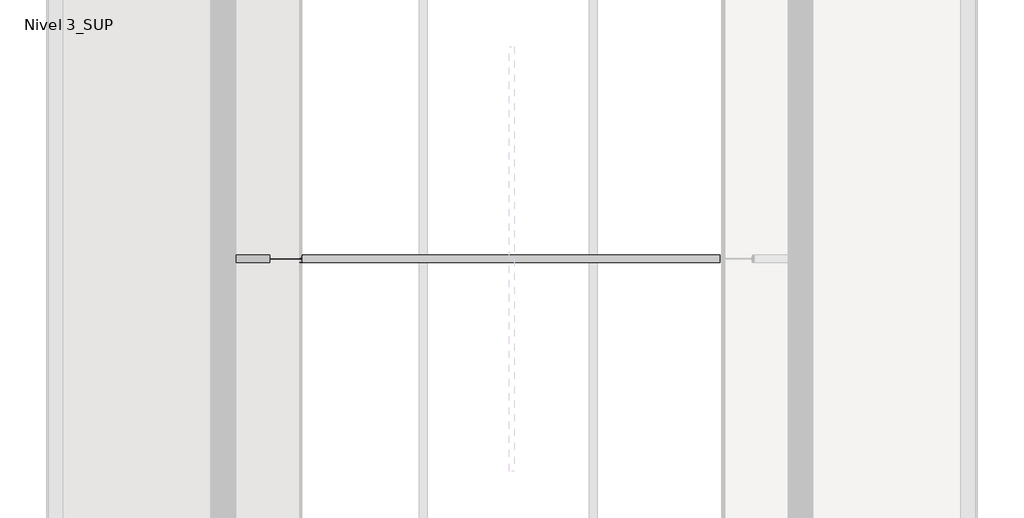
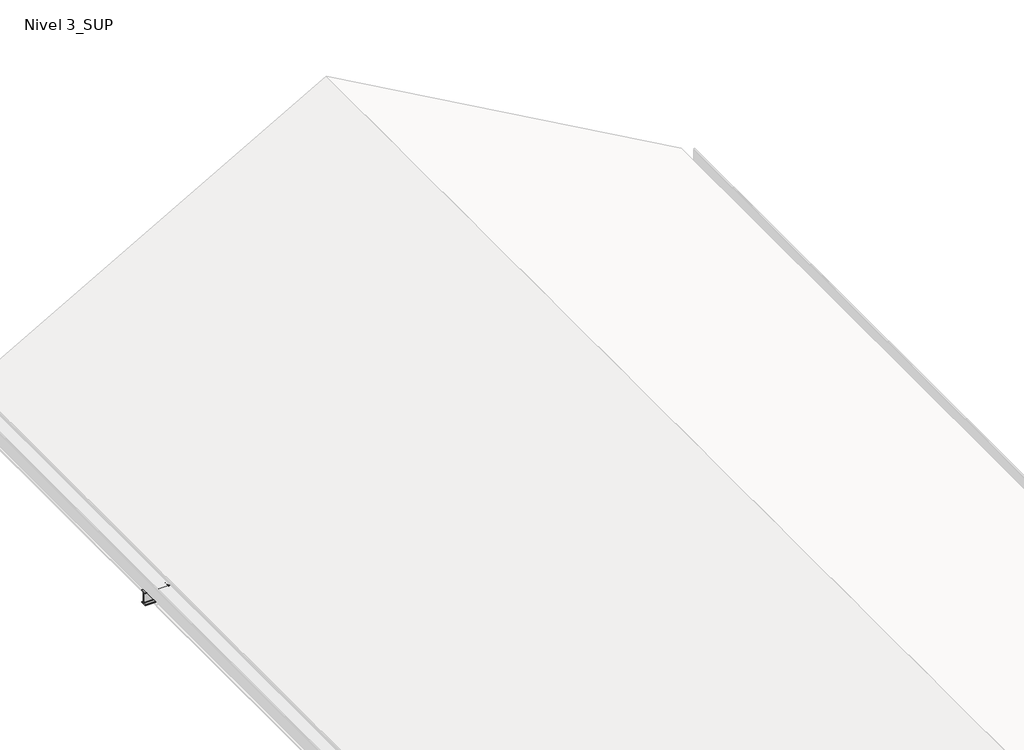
# One storey, part 8 of 10: 2 beams.
"""IFC4 building model written with IfcOpenShell, lengths in millimetres."""

from ifc_helpers import new_model, si_unit, point, frame, frame_2d, origin, place, context, project, spatial, polyline, circle_curve, ellipse_curve, trimmed, segment, composite_curve, outline, extrude, element, save
from ifc_brep_helpers import plane_surface, cylinder_surface, revolved_surface, advanced_brep

model = new_model("IFC4")

# Units and contexts
model_context = context("Model", 3, world=origin())
ifc_project = project(units=[si_unit("LENGTHUNIT", "METRE", prefix="MILLI")], contexts=[model_context])

# Site, building, storey
site = spatial("IfcSite", under=ifc_project)
building = spatial("IfcBuilding", under=site)
storey = spatial("IfcBuildingStorey", under=building, Name="Nivel 3_SUP", Elevation=13230.0)

# Beams
placement = place(None, origin())
element("IfcBeam", 1, ObjectType="IPN - Secciones en I con alas cónicas : IPN 160", at=placement, inside=storey, context=model_context, shape_type="SweptSolid", body=[
    extrude(outline(composite_curve([segment(polyline([(9888.6072273, 13390.0), (9888.6072273, 13386.3950593)]), True, "CONTINUOUS"), segment(trimmed(circle_curve(frame_2d((9884.8072273, 13386.3950593)), 3.8), [point((9888.6072273, 13386.3950593))], [point((9885.3340891, 13382.6317607))], False, "CARTESIAN"), True, "CONTINUOUS"), segment(polyline([(9885.3340891, 13382.6317607), (9860.1837459, 13379.1107126)]), True, "CONTINUOUS"), segment(trimmed(circle_curve(frame_2d((9861.0572273, 13372.8715596)), 6.3), [point((9860.1837459, 13379.1107126))], [point((9854.7572273, 13372.8715596))], True, "CARTESIAN"), True, "CONTINUOUS"), segment(polyline([(9854.7572273, 13372.8715596), (9854.7572273, 13247.1284404)]), True, "CONTINUOUS"), segment(trimmed(circle_curve(frame_2d((9861.0572273, 13247.1284404)), 6.3), [point((9854.7572273, 13247.1284404))], [point((9860.1837459, 13240.8892874))], True, "CARTESIAN"), True, "CONTINUOUS"), segment(polyline([(9860.1837459, 13240.8892874), (9885.3340891, 13237.3682393)]), True, "CONTINUOUS"), segment(trimmed(circle_curve(frame_2d((9884.8072273, 13233.6049407)), 3.8), [point((9885.3340891, 13237.3682393))], [point((9888.6072273, 13233.6049407))], False, "CARTESIAN"), True, "CONTINUOUS"), segment(polyline([(9888.6072273, 13233.6049407), (9888.6072273, 13230.0), (9814.6072273, 13230.0), (9814.6072273, 13233.6049407)]), True, "CONTINUOUS"), segment(trimmed(circle_curve(frame_2d((9818.4072273, 13233.6049407)), 3.8), [point((9814.6072273, 13233.6049407))], [point((9817.8803655, 13237.3682393))], False, "CARTESIAN"), True, "CONTINUOUS"), segment(polyline([(9817.8803655, 13237.3682393), (9843.0307088, 13240.8892874)]), True, "CONTINUOUS"), segment(trimmed(circle_curve(frame_2d((9842.1572273, 13247.1284404)), 6.3), [point((9843.0307088, 13240.8892874))], [point((9848.4572273, 13247.1284404))], True, "CARTESIAN"), True, "CONTINUOUS"), segment(polyline([(9848.4572273, 13247.1284404), (9848.4572273, 13372.8715596)]), True, "CONTINUOUS"), segment(trimmed(circle_curve(frame_2d((9842.1572273, 13372.8715596)), 6.3), [point((9848.4572273, 13372.8715596))], [point((9843.0307088, 13379.1107126))], True, "CARTESIAN"), True, "CONTINUOUS"), segment(polyline([(9843.0307088, 13379.1107126), (9817.8803655, 13382.6317607)]), True, "CONTINUOUS"), segment(trimmed(circle_curve(frame_2d((9818.4072273, 13386.3950593)), 3.8), [point((9817.8803655, 13382.6317607))], [point((9814.6072273, 13386.3950593))], False, "CARTESIAN"), True, "CONTINUOUS"), segment(polyline([(9814.6072273, 13386.3950593), (9814.6072273, 13390.0), (9888.6072273, 13390.0)]), True, "CONTINUOUS")], self_intersect=False)), frame((6033.4837907, 0.0, 0.0), z_axis=(1.0, 0.0, 0.0), x_axis=(0.0, 1.0, 0.0)), (0.0, 0.0, 1.0), 8899.073732),
])
element("IfcBeam", 2, ObjectType="IPN - Secciones en I con alas cónicas : IPN 160", at=placement, inside=storey, context=model_context, shape_type="AdvancedBrep", body=[
    advanced_brep(
    [(6390.9153459, 9814.6072273, 13240.5610738), (6389.1422546, 9814.6072273, 13243.6998227), (6387.2912749, 9817.8803655, 13246.9764506), (6385.5594462, 9843.0307088, 13250.0421559), (6382.4907166, 9848.4572273, 13255.4744601), (6387.2054153, 9848.4572273, 13247.1284404), (6390.7299368, 9843.0307088, 13240.8892874), (6390.9153459, 9840.6863257, 13240.5610738), (6649.0725288, 9814.6072273, 13386.3950593), (6641.7431841, 9814.6072273, 13386.3950593), (6627.4300365, 9817.8803655, 13382.6317607), (6614.038253, 9843.0307088, 13379.1107126), (6590.3085608, 9848.4572273, 13372.8715596), (6391.4963539, 9843.0307088, 13240.8892874), (6402.5409822, 9848.4572273, 13247.1284404), (6625.133057, 9848.4572273, 13372.8715596), (6636.1776853, 9843.0307088, 13379.1107126), (6642.4106895, 9817.8803655, 13382.6317607)],
    [
        (0, 1),
        (1, 2, circle_curve(frame((6389.1422546, 9818.4072273, 13243.6998227), z_axis=(-0.8706797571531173, 0.0, -0.4918503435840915), x_axis=(0.0, 1.0, 0.0)), 3.8)),
        (2, 3),
        (3, 4, circle_curve(frame((6382.4907166, 9842.1572273, 13255.4744601), z_axis=(0.8706797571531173, 0.0, 0.4918503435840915), x_axis=(0.0, 1.0, 0.0)), 6.3)),
        (4, 5),
        (5, 6, ellipse_curve(frame((6387.2054153, 9842.1572273, 13247.1284404), z_axis=(-0.8706797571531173, 0.0, -0.49185034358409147), x_axis=(0.49185034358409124, 0.0, -0.8706797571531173)), 7.2357258, 6.3)),
        (6, 7),
        (7, 0),
        (0, 8),
        (8, 9),
        (9, 1),
        (2, 10),
        (10, 11),
        (11, 3),
        (11, 12, ellipse_curve(frame((6590.3085608, 9842.1572273, 13372.8715596), z_axis=(-0.2542835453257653, 0.0, 0.9671297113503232), x_axis=(0.9671297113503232, 0.0, 0.2542835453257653)), 24.7754922, 6.3)),
        (12, 4),
        (7, 13),
        (13, 14, ellipse_curve(frame((6402.5409822, 9842.1572273, 13247.1284404), z_axis=(0.4918503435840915, 0.0, -0.8706797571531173), x_axis=(0.8706797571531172, 0.0, 0.49185034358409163)), 12.8087742, 6.3)),
        (14, 15),
        (15, 16, ellipse_curve(frame((6625.133057, 9842.1572273, 13372.8715596), z_axis=(0.4918503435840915, 0.0, -0.8706797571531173), x_axis=(0.8706797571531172, 0.0, 0.49185034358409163)), 12.8087742, 6.3)),
        (16, 17),
        (17, 8, ellipse_curve(frame((6649.0725288, 9818.4072273, 13386.3950593), z_axis=(-0.4918503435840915, 0.0, 0.8706797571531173), x_axis=(-0.8706797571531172, 0.0, -0.49185034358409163)), 7.7259273, 3.8)),
        (9, 10, ellipse_curve(frame((6641.7431841, 9818.4072273, 13386.3950593), z_axis=(0.2542835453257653, 0.0, -0.9671297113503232), x_axis=(-0.9671297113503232, 0.0, -0.2542835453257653)), 14.9439477, 3.8)),
        (6, 13),
        (5, 14),
        (17, 10),
        (12, 15),
        (11, 16),
    ],
    [
        plane_surface(frame((6351.5673184, 9851.6072273, 13310.2154543), z_axis=(-0.8706797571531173, 0.0, -0.49185034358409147), x_axis=(-0.49185034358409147, 0.0, 0.8706797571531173))),
        plane_surface(frame((6390.9153459, 9814.6072273, 13240.5610738), z_axis=(0.0, -1.0, 0.0), x_axis=(0.8706797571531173, 0.0, 0.4918503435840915))),
        plane_surface(frame((6386.2427677, 9833.1072273, 13248.8325315), z_axis=(-0.4870999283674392, -0.13864784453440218, 0.862270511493), x_axis=(0.8706797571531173, 0.0, 0.4918503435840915))),
        revolved_surface(polyline([(6611.171018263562, 9848.4572273, 13384.656842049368), (6382.4907166, 9848.4572273, 13255.4744601)]), (6382.4907166, 9842.1572273, 13255.4744601), (0.8706797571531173, 0.0, 0.4918503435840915)),
        plane_surface(frame((6390.9153459, 9888.6072273, 13240.5610738), z_axis=(0.4918503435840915, 0.0, -0.8706797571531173), x_axis=(0.8706797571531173, 0.0, 0.4918503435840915))),
        cylinder_surface(frame((6389.1422546, 9818.4072273, 13243.6998227), z_axis=(-0.8706797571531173, 0.0, -0.4918503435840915), x_axis=(0.0, 1.0, 0.0)), 3.8),
        plane_surface(frame((6033.4837907, 9817.8803655, 13237.3682393), z_axis=(0.0, 0.13864784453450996, -0.9903417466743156), x_axis=(1.0, 0.0, 0.0))),
        cylinder_surface(frame((10483.0206567, 9842.1572273, 13247.1284404), z_axis=(1.0, 0.0, 0.0), x_axis=(0.0, 1.0, 0.0)), 6.3),
        revolved_surface(polyline([(6627.290448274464, 9822.2072273, 13386.3950593), (6656.195919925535, 9822.2072273, 13386.3950593)]), (10483.0206567, 9818.4072273, 13386.3950593), (-1.0, 0.0, 0.0)),
        plane_surface(frame((6033.4837907, 9848.4572273, 13247.1284404), z_axis=(0.0, 1.0, 0.0), x_axis=(1.0, 0.0, 0.0))),
        cylinder_surface(frame((10483.0206567, 9842.1572273, 13372.8715596), z_axis=(1.0, 0.0, 0.0), x_axis=(0.0, 1.0, 0.0)), 6.3),
        plane_surface(frame((6033.4837907, 9843.0307088, 13379.1107126), z_axis=(0.0, 0.1386478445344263, 0.9903417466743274), x_axis=(1.0, 0.0, 0.0))),
    ],
    [
        (0, [[1, 2, 3, 4, 5, 6, 7, 8]]),
        (1, [[-1, 9, 10, 11]]),
        (2, [[-3, 12, 13, 14]]),
        (3, [[-4, -14, 15, 16]]),
        (4, [[-8, 17, 18, 19, 20, 21, 22, -9]]),
        (5, [[-2, -11, 23, -12]]),
        (6, [[24, -17, -7]]),
        (7, [[-24, -6, 25, -18]]),
        (8, [[26, -23, -10, -22]]),
        (9, [[-25, -5, -16, 27, -19]]),
        (10, [[-27, -15, 28, -20]]),
        (11, [[-28, -13, -26, -21]]),
    ],
),
    advanced_brep(
    [(10513.2954635, 9888.6072273, 15569.3094575), (10511.5223722, 9888.6072273, 15572.4482064), (10509.6713925, 9885.3340891, 15575.7248344), (10507.9395638, 9860.1837459, 15578.7905396), (10504.8708342, 9854.7572273, 15584.2228438), (10513.2954635, 9854.7572273, 15569.3094575), (10420.8520301, 9885.3340891, 15525.5504349), (10424.3730781, 9860.1837459, 15531.5835105), (10417.0887314, 9888.6072273, 15519.1022796), (10417.0887314, 9888.6072273, 15514.9619045), (10430.6122311, 9854.7572273, 15522.6013815), (10424.3730781, 9860.1837459, 15519.07686), (10420.8520301, 9885.3340891, 15517.0878064), (10430.6122311, 9854.7572273, 15542.2738734)],
    [
        (0, 1),
        (1, 2, circle_curve(frame((10511.5223722, 9884.8072273, 15572.4482064), z_axis=(0.8706797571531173, 0.0, 0.4918503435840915), x_axis=(0.0, 1.0, 0.0)), 3.8)),
        (2, 3),
        (3, 4, circle_curve(frame((10504.8708342, 9861.0572273, 15584.2228438), z_axis=(-0.8706797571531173, 0.0, -0.4918503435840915), x_axis=(0.0, 1.0, 0.0)), 6.3)),
        (4, 5),
        (5, 0),
        (2, 6),
        (6, 7),
        (7, 3),
        (1, 8),
        (8, 6, ellipse_curve(frame((10417.0887314, 9884.8072273, 15519.1022796), z_axis=(0.8636695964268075, 0.0, -0.5040583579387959), x_axis=(-0.5040583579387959, 0.0, -0.8636695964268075)), 7.5388096, 3.8)),
        (0, 9),
        (9, 8),
        (5, 10),
        (10, 11, ellipse_curve(frame((10430.6122311, 9861.0572273, 15522.6013815), z_axis=(0.4918503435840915, 0.0, -0.8706797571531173), x_axis=(0.8706797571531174, 0.0, 0.49185034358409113)), 7.2357258, 6.3)),
        (11, 12),
        (12, 9, ellipse_curve(frame((10417.0887314, 9884.8072273, 15514.9619045), z_axis=(-0.4918503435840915, 0.0, 0.8706797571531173), x_axis=(-0.8706797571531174, 0.0, -0.49185034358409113)), 4.3644061, 3.8)),
        (7, 13, ellipse_curve(frame((10430.6122311, 9861.0572273, 15542.2738734), z_axis=(-0.8636695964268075, 0.0, 0.5040583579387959), x_axis=(0.5040583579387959, 0.0, 0.8636695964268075)), 12.4985528, 6.3)),
        (13, 4),
        (6, 12),
        (11, 7),
        (10, 13),
    ],
    [
        plane_surface(frame((10473.947436, 9851.6072273, 15638.9638381), z_axis=(0.8706797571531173, 0.0, 0.49185034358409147), x_axis=(-0.49185034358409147, 0.0, 0.8706797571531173))),
        plane_surface(frame((6386.2427677, 9870.1072273, 13248.8325315), z_axis=(-0.487099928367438, 0.13864784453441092, 0.8622705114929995), x_axis=(0.8706797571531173, 0.0, 0.4918503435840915))),
        cylinder_surface(frame((6389.1422546, 9884.8072273, 13243.6998227), z_axis=(-0.8706797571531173, 0.0, -0.4918503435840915), x_axis=(0.0, 1.0, 0.0)), 3.8),
        plane_surface(frame((6389.1422546, 9888.6072273, 13243.6998227), z_axis=(0.0, 1.0, 0.0), x_axis=(0.8706797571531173, 0.0, 0.4918503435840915))),
        plane_surface(frame((6390.9153459, 9888.6072273, 13240.5610738), z_axis=(0.4918503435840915, 0.0, -0.8706797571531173), x_axis=(0.8706797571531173, 0.0, 0.4918503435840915))),
        revolved_surface(polyline([(10504.870834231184, 9867.357227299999, 15584.222843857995), (10421.213573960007, 9867.357227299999, 15536.964535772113)]), (6382.4907166, 9861.0572273, 13255.4744601), (0.8706797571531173, 0.0, 0.4918503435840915)),
        plane_surface(frame((10420.8520301, 9885.3340891, 13390.0), z_axis=(-0.9903417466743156, -0.13864784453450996, 0.0), x_axis=(0.0, 0.0, 1.0))),
        cylinder_surface(frame((10430.6122311, 9861.0572273, 14544.0), z_axis=(0.0, 0.0, 1.0), x_axis=(0.0, -1.0, 0.0)), 6.3),
        plane_surface(frame((10430.6122311, 9854.7572273, 13390.0), z_axis=(0.0, -1.0, 0.0), x_axis=(0.0, 0.0, 1.0))),
        revolved_surface(polyline([(10417.0887314, 9881.0072273, 15512.591238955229), (10417.0887314, 9881.0072273, 15525.61332024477)]), (10417.0887314, 9884.8072273, 14544.0), (0.0, 0.0, -1.0)),
    ],
    [
        (0, [[1, 2, 3, 4, 5, 6]]),
        (1, [[-3, 7, 8, 9]]),
        (2, [[-2, 10, 11, -7]]),
        (3, [[-1, 12, 13, -10]]),
        (4, [[-6, 14, 15, 16, 17, -12]]),
        (5, [[-4, -9, 18, 19]]),
        (6, [[20, -16, 21, -8]]),
        (7, [[-21, -15, 22, -18]]),
        (8, [[-22, -14, -5, -19]]),
        (9, [[-20, -11, -13, -17]]),
    ],
),
    advanced_brep(
    [(6313.9923823, 9888.6072273, 13376.731086), (6312.2192909, 9888.6072273, 13379.8698349), (6323.7703264, 9888.6072273, 13386.3950593), (6331.0996711, 9888.6072273, 13386.3950593), (6317.5751907, 9860.1837459, 13370.3887528), (6315.843362, 9885.3340891, 13373.4544581), (6332.0891402, 9885.3340891, 13382.6317607), (6333.0149153, 9860.1837459, 13379.1107126), (6320.6439202, 9854.7572273, 13364.9564486), (6334.6553508, 9854.7572273, 13372.8715596), (6316.1726436, 9854.7572273, 13372.8715596), (6312.6481221, 9860.1837459, 13379.1107126), (6312.2192909, 9865.6060482, 13379.8698349), (6317.1084871, 9885.3340891, 13382.6317607)],
    [
        (0, 1),
        (1, 2),
        (2, 3),
        (3, 0),
        (4, 5),
        (5, 6),
        (6, 7),
        (7, 4),
        (8, 4, circle_curve(frame((6320.6439202, 9861.0572273, 13364.9564486), z_axis=(-0.8706797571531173, 0.0, -0.4918503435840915), x_axis=(0.0, 1.0, 0.0)), 6.3)),
        (7, 9, ellipse_curve(frame((6334.6553508, 9861.0572273, 13372.8715596), z_axis=(0.967129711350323, 0.0, 0.2542835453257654), x_axis=(-0.25428354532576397, 0.0, 0.9671297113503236)), 6.514121, 6.3)),
        (9, 8),
        (0, 5, circle_curve(frame((6313.9923823, 9884.8072273, 13376.731086), z_axis=(-0.8706797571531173, 0.0, -0.4918503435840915), x_axis=(0.0, 1.0, 0.0)), 3.8)),
        (8, 10),
        (10, 11, ellipse_curve(frame((6316.1726436, 9861.0572273, 13372.8715596), z_axis=(-0.8706797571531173, 0.0, -0.49185034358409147), x_axis=(0.49185034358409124, 0.0, -0.8706797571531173)), 7.2357258, 6.3)),
        (11, 12),
        (12, 1),
        (12, 13),
        (13, 2, ellipse_curve(frame((6323.7703264, 9884.8072273, 13386.3950593), z_axis=(0.4918503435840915, 0.0, -0.8706797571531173), x_axis=(-0.8706797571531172, 0.0, -0.49185034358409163)), 7.7259273, 3.8)),
        (3, 6, ellipse_curve(frame((6331.0996711, 9884.8072273, 13386.3950593), z_axis=(-0.967129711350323, 0.0, -0.2542835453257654), x_axis=(0.25428354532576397, 0.0, -0.9671297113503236)), 3.9291524, 3.8)),
        (6, 13),
        (11, 7),
        (10, 9),
    ],
    [
        plane_surface(frame((6312.2192909, 9888.6072273, 13379.8698349), z_axis=(0.0, 1.0, 0.0), x_axis=(0.8706797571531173, 0.0, 0.4918503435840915))),
        plane_surface(frame((6316.8918692, 9870.1072273, 13371.5983772), z_axis=(0.48709992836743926, 0.13864784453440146, -0.8622705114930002), x_axis=(0.8706797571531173, 0.0, 0.4918503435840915))),
        revolved_surface(polyline([(6336.097574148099, 9867.357227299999, 13373.686277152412), (6320.6439202, 9867.357227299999, 13364.9564486)]), (6320.6439202, 9861.0572273, 13364.9564486), (0.8706797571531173, 0.0, 0.4918503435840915)),
        plane_surface(frame((6351.5673184, 9851.6072273, 13310.2154543), z_axis=(-0.8706797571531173, 0.0, -0.49185034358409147), x_axis=(-0.49185034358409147, 0.0, 0.8706797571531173))),
        plane_surface(frame((6312.2192909, 9814.6072273, 13379.8698349), z_axis=(-0.4918503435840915, 0.0, 0.8706797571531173), x_axis=(0.8706797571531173, 0.0, 0.4918503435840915))),
        cylinder_surface(frame((6313.9923823, 9884.8072273, 13376.731086), z_axis=(-0.8706797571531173, 0.0, -0.4918503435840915), x_axis=(0.0, 1.0, 0.0)), 3.8),
        plane_surface(frame((6033.4837907, 9885.3340891, 13382.6317607), z_axis=(0.0, -0.13864784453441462, 0.9903417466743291), x_axis=(1.0, 0.0, 0.0))),
        cylinder_surface(frame((10483.0206567, 9861.0572273, 13372.8715596), z_axis=(1.0, 0.0, 0.0), x_axis=(0.0, 1.0, 0.0)), 6.3),
        plane_surface(frame((6033.4837907, 9854.7572273, 13372.8715596), z_axis=(0.0, -1.0, 0.0), x_axis=(1.0, 0.0, 0.0))),
        revolved_surface(polyline([(6317.043517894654, 9888.607227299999, 13386.3950593), (6332.098789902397, 9888.607227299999, 13386.3950593)]), (10483.0206567, 9884.8072273, 13386.3950593), (-1.0, 0.0, 0.0)),
    ],
    [
        (0, [[1, 2, 3, 4]]),
        (1, [[5, 6, 7, 8]]),
        (2, [[9, -8, 10, 11]]),
        (3, [[-1, 12, -5, -9, 13, 14, 15, 16]]),
        (4, [[-16, 17, 18, -2]]),
        (5, [[-12, -4, 19, -6]]),
        (6, [[20, -17, -15, 21, -7]]),
        (7, [[-21, -14, 22, -10]]),
        (8, [[-22, -13, -11]]),
        (9, [[-20, -19, -3, -18]]),
    ],
),
    advanced_brep(
    [(10413.4837907, 9888.6072273, 15692.5495499), (10413.4837907, 9885.3340891, 15688.2272964), (6345.1324915, 9885.3340891, 13390.0), (6337.4811832, 9888.6072273, 13390.0), (10413.4837907, 9854.7572273, 15677.0174331), (10413.4837907, 9854.7572273, 15532.5979515), (6620.6295447, 9854.7572273, 13390.0), (6364.9763347, 9854.7572273, 13390.0), (10413.4837907, 9885.3340891, 15521.3880882), (10413.4837907, 9888.6072273, 15517.0658347), (6648.1246962, 9888.6072273, 13390.0), (6640.4733878, 9885.3340891, 13390.0), (10413.4837907, 9814.6072273, 15517.0658347), (10413.4837907, 9817.8803655, 15521.3880882), (6640.4733878, 9817.8803655, 13390.0), (6648.1246962, 9814.6072273, 13390.0), (10413.4837907, 9848.4572273, 15532.5979515), (10413.4837907, 9848.4572273, 15677.0174331), (6364.9763347, 9848.4572273, 13390.0), (6620.6295447, 9848.4572273, 13390.0), (10413.4837907, 9817.8803655, 15688.2272964), (10413.4837907, 9814.6072273, 15692.5495499), (6337.4811832, 9814.6072273, 13390.0), (6345.1324915, 9817.8803655, 13390.0), (10413.4837907, 9888.6072273, 15696.6899249), (6330.1518385, 9888.6072273, 13390.0), (10413.4837907, 9860.1837459, 15684.1832745), (6352.2912708, 9860.1837459, 13390.0), (10413.4837907, 9860.1837459, 15525.4321101), (6633.3146085, 9860.1837459, 13390.0), (10413.4837907, 9888.6072273, 15512.9254597), (6655.4540409, 9888.6072273, 13390.0), (10413.4837907, 9814.6072273, 15512.9254597), (6655.4540409, 9814.6072273, 13390.0), (10413.4837907, 9843.0307088, 15525.4321101), (6633.3146085, 9843.0307088, 13390.0), (10413.4837907, 9843.0307088, 15684.1832745), (6352.2912708, 9843.0307088, 13390.0), (10413.4837907, 9814.6072273, 15696.6899249), (6330.1518385, 9814.6072273, 13390.0)],
    [
        (0, 1, ellipse_curve(frame((10413.4837907, 9884.8072273, 15692.5495499), z_axis=(-1.0, 0.0, 0.0), x_axis=(0.0, 0.0, -1.0)), 4.3644061, 3.8)),
        (1, 2),
        (2, 3, ellipse_curve(frame((6337.4811832, 9884.8072273, 13390.0), z_axis=(0.0, 0.0, 1.0), x_axis=(-1.0, 0.0, 0.0)), 7.7259273, 3.8)),
        (3, 0),
        (4, 5),
        (5, 6),
        (6, 7),
        (7, 4),
        (8, 9, ellipse_curve(frame((10413.4837907, 9884.8072273, 15517.0658347), z_axis=(-1.0, 0.0, 0.0), x_axis=(0.0, 0.0, -1.0)), 4.3644061, 3.8)),
        (9, 10),
        (10, 11, ellipse_curve(frame((6648.1246962, 9884.8072273, 13390.0), z_axis=(0.0, 0.0, 1.0), x_axis=(-1.0, 0.0, 0.0)), 7.7259273, 3.8)),
        (11, 8),
        (12, 13, ellipse_curve(frame((10413.4837907, 9818.4072273, 15517.0658347), z_axis=(-1.0, 0.0, 0.0), x_axis=(0.0, 0.0, -1.0)), 4.3644061, 3.8)),
        (13, 14),
        (14, 15, ellipse_curve(frame((6648.1246962, 9818.4072273, 13390.0), z_axis=(0.0, 0.0, 1.0), x_axis=(-1.0, 0.0, 0.0)), 7.7259273, 3.8)),
        (15, 12),
        (16, 17),
        (17, 18),
        (18, 19),
        (19, 16),
        (20, 21, ellipse_curve(frame((10413.4837907, 9818.4072273, 15692.5495499), z_axis=(-1.0, 0.0, 0.0), x_axis=(0.0, 0.0, -1.0)), 4.3644061, 3.8)),
        (21, 22),
        (22, 23, ellipse_curve(frame((6337.4811832, 9818.4072273, 13390.0), z_axis=(0.0, 0.0, 1.0), x_axis=(-1.0, 0.0, 0.0)), 7.7259273, 3.8)),
        (23, 20),
        (24, 0),
        (3, 25),
        (25, 24),
        (1, 26),
        (26, 27),
        (27, 2),
        (26, 4, ellipse_curve(frame((10413.4837907, 9861.0572273, 15677.0174331), z_axis=(1.0, 0.0, 0.0), x_axis=(0.0, 0.0, 1.0)), 7.2357258, 6.3)),
        (7, 27, ellipse_curve(frame((6364.9763347, 9861.0572273, 13390.0), z_axis=(0.0, 0.0, -1.0), x_axis=(1.0, 0.0, 0.0)), 12.8087742, 6.3)),
        (5, 28, ellipse_curve(frame((10413.4837907, 9861.0572273, 15532.5979515), z_axis=(1.0, 0.0, 0.0), x_axis=(0.0, 0.0, 1.0)), 7.2357258, 6.3)),
        (28, 29),
        (29, 6, ellipse_curve(frame((6620.6295447, 9861.0572273, 13390.0), z_axis=(0.0, 0.0, -1.0), x_axis=(1.0, 0.0, 0.0)), 12.8087742, 6.3)),
        (28, 8),
        (11, 29),
        (9, 30),
        (30, 31),
        (31, 10),
        (30, 32),
        (32, 33),
        (33, 31),
        (32, 12),
        (15, 33),
        (13, 34),
        (34, 35),
        (35, 14),
        (34, 16, ellipse_curve(frame((10413.4837907, 9842.1572273, 15532.5979515), z_axis=(1.0, 0.0, 0.0), x_axis=(0.0, 0.0, 1.0)), 7.2357258, 6.3)),
        (19, 35, ellipse_curve(frame((6620.6295447, 9842.1572273, 13390.0), z_axis=(0.0, 0.0, -1.0), x_axis=(1.0, 0.0, 0.0)), 12.8087742, 6.3)),
        (17, 36, ellipse_curve(frame((10413.4837907, 9842.1572273, 15677.0174331), z_axis=(1.0, 0.0, 0.0), x_axis=(0.0, 0.0, 1.0)), 7.2357258, 6.3)),
        (36, 37),
        (37, 18, ellipse_curve(frame((6364.9763347, 9842.1572273, 13390.0), z_axis=(0.0, 0.0, -1.0), x_axis=(1.0, 0.0, 0.0)), 12.8087742, 6.3)),
        (36, 20),
        (23, 37),
        (21, 38),
        (38, 39),
        (39, 22),
        (38, 24),
        (25, 39),
    ],
    [
        cylinder_surface(frame((6313.9923823, 9884.8072273, 13376.731086), z_axis=(-0.8706797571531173, 0.0, -0.4918503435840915), x_axis=(0.0, 1.0, 0.0)), 3.8),
        plane_surface(frame((6320.6439202, 9854.7572273, 13364.9564486), z_axis=(0.0, 1.0, 0.0), x_axis=(0.8706797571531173, 0.0, 0.4918503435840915))),
        cylinder_surface(frame((6389.1422546, 9884.8072273, 13243.6998227), z_axis=(-0.8706797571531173, 0.0, -0.4918503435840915), x_axis=(0.0, 1.0, 0.0)), 3.8),
        cylinder_surface(frame((6389.1422546, 9818.4072273, 13243.6998227), z_axis=(-0.8706797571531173, 0.0, -0.4918503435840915), x_axis=(0.0, 1.0, 0.0)), 3.8),
        plane_surface(frame((6382.4907166, 9848.4572273, 13255.4744601), z_axis=(0.0, -1.0, 0.0), x_axis=(0.8706797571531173, 0.0, 0.4918503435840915))),
        cylinder_surface(frame((6313.9923823, 9818.4072273, 13376.731086), z_axis=(-0.8706797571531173, 0.0, -0.4918503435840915), x_axis=(0.0, 1.0, 0.0)), 3.8),
        plane_surface(frame((6312.2192909, 9888.6072273, 13379.8698349), z_axis=(0.0, 1.0, 0.0), x_axis=(0.8706797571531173, 0.0, 0.4918503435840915))),
        plane_surface(frame((6316.8918692, 9870.1072273, 13371.5983772), z_axis=(0.48709992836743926, 0.13864784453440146, -0.8622705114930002), x_axis=(0.8706797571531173, 0.0, 0.4918503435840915))),
        revolved_surface(polyline([(10416.582447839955, 9867.357227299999, 15678.767876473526), (6355.266217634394, 9867.357227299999, 13384.514717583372)]), (6320.6439202, 9861.0572273, 13364.9564486), (0.8706797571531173, 0.0, 0.4918503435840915)),
        revolved_surface(polyline([(10416.582447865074, 9867.357227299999, 15534.348394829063), (6610.919427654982, 9867.357227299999, 13384.514717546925)]), (6382.4907166, 9861.0572273, 13255.4744601), (0.8706797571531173, 0.0, 0.4918503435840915)),
        plane_surface(frame((6386.2427677, 9870.1072273, 13248.8325315), z_axis=(-0.487099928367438, 0.13864784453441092, 0.8622705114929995), x_axis=(0.8706797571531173, 0.0, 0.4918503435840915))),
        plane_surface(frame((6389.1422546, 9888.6072273, 13243.6998227), z_axis=(0.0, 1.0, 0.0), x_axis=(0.8706797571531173, 0.0, 0.4918503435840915))),
        plane_surface(frame((6390.9153459, 9888.6072273, 13240.5610738), z_axis=(0.4918503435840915, 0.0, -0.8706797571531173), x_axis=(0.8706797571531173, 0.0, 0.4918503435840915))),
        plane_surface(frame((6390.9153459, 9814.6072273, 13240.5610738), z_axis=(0.0, -1.0, 0.0), x_axis=(0.8706797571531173, 0.0, 0.4918503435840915))),
        plane_surface(frame((6386.2427677, 9833.1072273, 13248.8325315), z_axis=(-0.4870999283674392, -0.13864784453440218, 0.862270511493), x_axis=(0.8706797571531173, 0.0, 0.4918503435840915))),
        revolved_surface(polyline([(10416.582447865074, 9848.4572273, 15534.348394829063), (6610.919427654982, 9848.4572273, 13384.514717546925)]), (6382.4907166, 9842.1572273, 13255.4744601), (0.8706797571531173, 0.0, 0.4918503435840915)),
        revolved_surface(polyline([(10416.582447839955, 9848.4572273, 15678.767876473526), (6355.266217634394, 9848.4572273, 13384.514717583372)]), (6320.6439202, 9842.1572273, 13364.9564486), (0.8706797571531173, 0.0, 0.4918503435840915)),
        plane_surface(frame((6316.8918692, 9833.1072273, 13371.5983772), z_axis=(0.487099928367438, -0.13864784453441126, -0.8622705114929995), x_axis=(0.8706797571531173, 0.0, 0.4918503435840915))),
        plane_surface(frame((6313.9923823, 9814.6072273, 13376.731086), z_axis=(0.0, -1.0, 0.0), x_axis=(0.8706797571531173, 0.0, 0.4918503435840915))),
        plane_surface(frame((6312.2192909, 9814.6072273, 13379.8698349), z_axis=(-0.4918503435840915, 0.0, 0.8706797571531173), x_axis=(0.8706797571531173, 0.0, 0.4918503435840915))),
        plane_surface(frame((10413.4837907, 9814.6072273, 13390.0), z_axis=(1.0, 0.0, 0.0), x_axis=(0.0, 0.0, 1.0))),
        plane_surface(frame((6033.4837907, 9814.6072273, 13390.0), z_axis=(0.0, 0.0, -1.0), x_axis=(1.0, 0.0, 0.0))),
    ],
    [
        (0, [[1, 2, 3, 4]]),
        (1, [[5, 6, 7, 8]]),
        (2, [[9, 10, 11, 12]]),
        (3, [[13, 14, 15, 16]]),
        (4, [[17, 18, 19, 20]]),
        (5, [[21, 22, 23, 24]]),
        (6, [[25, -4, 26, 27]]),
        (7, [[28, 29, 30, -2]]),
        (8, [[31, -8, 32, -29]]),
        (9, [[33, 34, 35, -6]]),
        (10, [[36, -12, 37, -34]]),
        (11, [[38, 39, 40, -10]]),
        (12, [[41, 42, 43, -39]]),
        (13, [[44, -16, 45, -42]]),
        (14, [[46, 47, 48, -14]]),
        (15, [[49, -20, 50, -47]]),
        (16, [[51, 52, 53, -18]]),
        (17, [[54, -24, 55, -52]]),
        (18, [[56, 57, 58, -22]]),
        (19, [[59, -27, 60, -57]]),
        (20, [[-25, -59, -56, -21, -54, -51, -17, -49, -46, -13, -44, -41, -38, -9, -36, -33, -5, -31, -28, -1]]),
        (21, [[-26, -3, -30, -32, -7, -35, -37, -11, -40, -43, -45, -15, -48, -50, -19, -53, -55, -23, -58, -60]]),
    ],
),
    advanced_brep(
    [(6385.5594462, 9860.1837459, 13250.0421559), (6382.4907166, 9854.7572273, 13255.4744601), (6590.3085608, 9854.7572273, 13372.8715596), (6614.038253, 9860.1837459, 13379.1107126), (6387.2912749, 9885.3340891, 13246.9764506), (6627.4300365, 9885.3340891, 13382.6317607), (6390.9153459, 9888.6072273, 13240.5610738), (6389.1422546, 9888.6072273, 13243.6998227), (6641.7431841, 9888.6072273, 13386.3950593), (6649.0725288, 9888.6072273, 13386.3950593), (6390.9153459, 9862.5281289, 13240.5610738), (6642.4106895, 9885.3340891, 13382.6317607), (6636.1776853, 9860.1837459, 13379.1107126), (6625.133057, 9854.7572273, 13372.8715596), (6402.5409822, 9854.7572273, 13247.1284404), (6391.4963539, 9860.1837459, 13240.8892874), (6390.7299368, 9860.1837459, 13240.8892874), (6387.2054153, 9854.7572273, 13247.1284404)],
    [
        (0, 1, circle_curve(frame((6382.4907166, 9861.0572273, 13255.4744601), z_axis=(-0.8706797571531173, 0.0, -0.4918503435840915), x_axis=(0.0, 1.0, 0.0)), 6.3)),
        (1, 2),
        (2, 3, ellipse_curve(frame((6590.3085608, 9861.0572273, 13372.8715596), z_axis=(-0.2542835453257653, 0.0, 0.9671297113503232), x_axis=(0.9671297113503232, 0.0, 0.2542835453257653)), 24.7754922, 6.3)),
        (3, 0),
        (4, 0),
        (3, 5),
        (5, 4),
        (6, 7),
        (7, 8),
        (8, 9),
        (9, 6),
        (10, 6),
        (9, 11, ellipse_curve(frame((6649.0725288, 9884.8072273, 13386.3950593), z_axis=(-0.4918503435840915, 0.0, 0.8706797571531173), x_axis=(-0.8706797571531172, 0.0, -0.49185034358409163)), 7.7259273, 3.8)),
        (11, 12),
        (12, 13, ellipse_curve(frame((6625.133057, 9861.0572273, 13372.8715596), z_axis=(0.4918503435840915, 0.0, -0.8706797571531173), x_axis=(0.8706797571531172, 0.0, 0.49185034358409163)), 12.8087742, 6.3)),
        (13, 14),
        (14, 15, ellipse_curve(frame((6402.5409822, 9861.0572273, 13247.1284404), z_axis=(0.4918503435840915, 0.0, -0.8706797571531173), x_axis=(0.8706797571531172, 0.0, 0.49185034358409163)), 12.8087742, 6.3)),
        (15, 10),
        (4, 7, circle_curve(frame((6389.1422546, 9884.8072273, 13243.6998227), z_axis=(-0.8706797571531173, 0.0, -0.4918503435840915), x_axis=(0.0, 1.0, 0.0)), 3.8)),
        (10, 16),
        (16, 17, ellipse_curve(frame((6387.2054153, 9861.0572273, 13247.1284404), z_axis=(-0.8706797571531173, 0.0, -0.49185034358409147), x_axis=(0.49185034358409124, 0.0, -0.8706797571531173)), 7.2357258, 6.3)),
        (17, 1),
        (5, 8, ellipse_curve(frame((6641.7431841, 9884.8072273, 13386.3950593), z_axis=(0.2542835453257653, 0.0, -0.9671297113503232), x_axis=(-0.9671297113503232, 0.0, -0.2542835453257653)), 14.9439477, 3.8)),
        (5, 11),
        (14, 17),
        (16, 15),
        (3, 12),
        (2, 13),
    ],
    [
        revolved_surface(polyline([(6611.171018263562, 9867.357227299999, 13384.656842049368), (6382.4907166, 9867.357227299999, 13255.4744601)]), (6382.4907166, 9861.0572273, 13255.4744601), (0.8706797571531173, 0.0, 0.4918503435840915)),
        plane_surface(frame((6386.2427677, 9870.1072273, 13248.8325315), z_axis=(-0.487099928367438, 0.13864784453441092, 0.8622705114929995), x_axis=(0.8706797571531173, 0.0, 0.4918503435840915))),
        plane_surface(frame((6389.1422546, 9888.6072273, 13243.6998227), z_axis=(0.0, 1.0, 0.0), x_axis=(0.8706797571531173, 0.0, 0.4918503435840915))),
        plane_surface(frame((6390.9153459, 9888.6072273, 13240.5610738), z_axis=(0.4918503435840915, 0.0, -0.8706797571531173), x_axis=(0.8706797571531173, 0.0, 0.4918503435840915))),
        plane_surface(frame((6351.5673184, 9851.6072273, 13310.2154543), z_axis=(-0.8706797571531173, 0.0, -0.49185034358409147), x_axis=(-0.49185034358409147, 0.0, 0.8706797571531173))),
        cylinder_surface(frame((6389.1422546, 9884.8072273, 13243.6998227), z_axis=(-0.8706797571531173, 0.0, -0.4918503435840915), x_axis=(0.0, 1.0, 0.0)), 3.8),
        revolved_surface(polyline([(6627.290448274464, 9888.607227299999, 13386.3950593), (6656.195919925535, 9888.607227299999, 13386.3950593)]), (10483.0206567, 9884.8072273, 13386.3950593), (-1.0, 0.0, 0.0)),
        cylinder_surface(frame((10483.0206567, 9861.0572273, 13247.1284404), z_axis=(1.0, 0.0, 0.0), x_axis=(0.0, 1.0, 0.0)), 6.3),
        plane_surface(frame((6033.4837907, 9860.1837459, 13240.8892874), z_axis=(0.0, -0.13864784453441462, -0.9903417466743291), x_axis=(1.0, 0.0, 0.0))),
        plane_surface(frame((6033.4837907, 9885.3340891, 13382.6317607), z_axis=(0.0, -0.13864784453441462, 0.9903417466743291), x_axis=(1.0, 0.0, 0.0))),
        cylinder_surface(frame((10483.0206567, 9861.0572273, 13372.8715596), z_axis=(1.0, 0.0, 0.0), x_axis=(0.0, 1.0, 0.0)), 6.3),
        plane_surface(frame((6033.4837907, 9854.7572273, 13372.8715596), z_axis=(0.0, -1.0, 0.0), x_axis=(1.0, 0.0, 0.0))),
    ],
    [
        (0, [[1, 2, 3, 4]]),
        (1, [[5, -4, 6, 7]]),
        (2, [[8, 9, 10, 11]]),
        (3, [[12, -11, 13, 14, 15, 16, 17, 18]]),
        (4, [[-1, -5, 19, -8, -12, 20, 21, 22]]),
        (5, [[-19, -7, 23, -9]]),
        (6, [[24, -13, -10, -23]]),
        (7, [[25, -21, 26, -17]]),
        (8, [[-26, -20, -18]]),
        (9, [[-24, -6, 27, -14]]),
        (10, [[-27, -3, 28, -15]]),
        (11, [[-28, -2, -22, -25, -16]]),
    ],
),
    advanced_brep(
    [(6317.5751907, 9843.0307088, 13370.3887528), (6320.6439202, 9848.4572273, 13364.9564486), (6334.6553508, 9848.4572273, 13372.8715596), (6333.0149153, 9843.0307088, 13379.1107126), (6315.843362, 9817.8803655, 13373.4544581), (6332.0891402, 9817.8803655, 13382.6317607), (6312.2192909, 9814.6072273, 13379.8698349), (6313.9923823, 9814.6072273, 13376.731086), (6331.0996711, 9814.6072273, 13386.3950593), (6323.7703264, 9814.6072273, 13386.3950593), (6312.2192909, 9837.6084065, 13379.8698349), (6317.1084871, 9817.8803655, 13382.6317607), (6312.6481221, 9843.0307088, 13379.1107126), (6316.1726436, 9848.4572273, 13372.8715596)],
    [
        (0, 1, circle_curve(frame((6320.6439202, 9842.1572273, 13364.9564486), z_axis=(-0.8706797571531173, 0.0, -0.4918503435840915), x_axis=(0.0, 1.0, 0.0)), 6.3)),
        (1, 2),
        (2, 3, ellipse_curve(frame((6334.6553508, 9842.1572273, 13372.8715596), z_axis=(0.967129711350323, 0.0, 0.2542835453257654), x_axis=(-0.25428354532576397, 0.0, 0.9671297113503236)), 6.514121, 6.3)),
        (3, 0),
        (4, 0),
        (3, 5),
        (5, 4),
        (6, 7),
        (7, 8),
        (8, 9),
        (9, 6),
        (10, 6),
        (9, 11, ellipse_curve(frame((6323.7703264, 9818.4072273, 13386.3950593), z_axis=(0.4918503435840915, 0.0, -0.8706797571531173), x_axis=(-0.8706797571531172, 0.0, -0.49185034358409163)), 7.7259273, 3.8)),
        (11, 10),
        (4, 7, circle_curve(frame((6313.9923823, 9818.4072273, 13376.731086), z_axis=(-0.8706797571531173, 0.0, -0.4918503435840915), x_axis=(0.0, 1.0, 0.0)), 3.8)),
        (10, 12),
        (12, 13, ellipse_curve(frame((6316.1726436, 9842.1572273, 13372.8715596), z_axis=(-0.8706797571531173, 0.0, -0.49185034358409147), x_axis=(0.49185034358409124, 0.0, -0.8706797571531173)), 7.2357258, 6.3)),
        (13, 1),
        (5, 8, ellipse_curve(frame((6331.0996711, 9818.4072273, 13386.3950593), z_axis=(-0.967129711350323, 0.0, -0.2542835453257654), x_axis=(0.25428354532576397, 0.0, -0.9671297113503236)), 3.9291524, 3.8)),
        (13, 2),
        (12, 3),
        (11, 5),
    ],
    [
        revolved_surface(polyline([(6336.097574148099, 9848.4572273, 13373.686277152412), (6320.6439202, 9848.4572273, 13364.9564486)]), (6320.6439202, 9842.1572273, 13364.9564486), (0.8706797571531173, 0.0, 0.4918503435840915)),
        plane_surface(frame((6316.8918692, 9833.1072273, 13371.5983772), z_axis=(0.487099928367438, -0.13864784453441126, -0.8622705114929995), x_axis=(0.8706797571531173, 0.0, 0.4918503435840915))),
        plane_surface(frame((6313.9923823, 9814.6072273, 13376.731086), z_axis=(0.0, -1.0, 0.0), x_axis=(0.8706797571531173, 0.0, 0.4918503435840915))),
        plane_surface(frame((6312.2192909, 9814.6072273, 13379.8698349), z_axis=(-0.4918503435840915, 0.0, 0.8706797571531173), x_axis=(0.8706797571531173, 0.0, 0.4918503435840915))),
        plane_surface(frame((6351.5673184, 9851.6072273, 13310.2154543), z_axis=(-0.8706797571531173, 0.0, -0.49185034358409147), x_axis=(-0.49185034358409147, 0.0, 0.8706797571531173))),
        cylinder_surface(frame((6313.9923823, 9818.4072273, 13376.731086), z_axis=(-0.8706797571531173, 0.0, -0.4918503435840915), x_axis=(0.0, 1.0, 0.0)), 3.8),
        plane_surface(frame((6033.4837907, 9848.4572273, 13247.1284404), z_axis=(0.0, 1.0, 0.0), x_axis=(1.0, 0.0, 0.0))),
        cylinder_surface(frame((10483.0206567, 9842.1572273, 13372.8715596), z_axis=(1.0, 0.0, 0.0), x_axis=(0.0, 1.0, 0.0)), 6.3),
        plane_surface(frame((6033.4837907, 9843.0307088, 13379.1107126), z_axis=(0.0, 0.1386478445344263, 0.9903417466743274), x_axis=(1.0, 0.0, 0.0))),
        revolved_surface(polyline([(6317.043517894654, 9822.2072273, 13386.3950593), (6332.098789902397, 9822.2072273, 13386.3950593)]), (10483.0206567, 9818.4072273, 13386.3950593), (-1.0, 0.0, 0.0)),
    ],
    [
        (0, [[1, 2, 3, 4]]),
        (1, [[5, -4, 6, 7]]),
        (2, [[8, 9, 10, 11]]),
        (3, [[12, -11, 13, 14]]),
        (4, [[-1, -5, 15, -8, -12, 16, 17, 18]]),
        (5, [[-15, -7, 19, -9]]),
        (6, [[20, -2, -18]]),
        (7, [[-20, -17, 21, -3]]),
        (8, [[-21, -16, -14, 22, -6]]),
        (9, [[-22, -13, -10, -19]]),
    ],
),
    advanced_brep(
    [(10513.2954635, 9848.4572273, 15569.3094575), (10513.2954635, 9814.6072273, 15569.3094575), (10417.0887314, 9814.6072273, 15514.9619045), (10420.8520301, 9817.8803655, 15517.0878064), (10424.3730781, 9843.0307088, 15519.07686), (10430.6122311, 9848.4572273, 15522.6013815), (10511.5223722, 9814.6072273, 15572.4482064), (10417.0887314, 9814.6072273, 15519.1022796), (10509.6713925, 9817.8803655, 15575.7248344), (10420.8520301, 9817.8803655, 15525.5504349), (10507.9395638, 9843.0307088, 15578.7905396), (10424.3730781, 9843.0307088, 15531.5835105), (10504.8708342, 9848.4572273, 15584.2228438), (10430.6122311, 9848.4572273, 15542.2738734)],
    [
        (0, 1),
        (1, 2),
        (2, 3, ellipse_curve(frame((10417.0887314, 9818.4072273, 15514.9619045), z_axis=(-0.4918503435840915, 0.0, 0.8706797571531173), x_axis=(-0.8706797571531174, 0.0, -0.49185034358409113)), 4.3644061, 3.8)),
        (3, 4),
        (4, 5, ellipse_curve(frame((10430.6122311, 9842.1572273, 15522.6013815), z_axis=(0.4918503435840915, 0.0, -0.8706797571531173), x_axis=(0.8706797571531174, 0.0, 0.49185034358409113)), 7.2357258, 6.3)),
        (5, 0),
        (1, 6),
        (6, 7),
        (7, 2),
        (6, 8, circle_curve(frame((10511.5223722, 9818.4072273, 15572.4482064), z_axis=(-0.8706797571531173, 0.0, -0.4918503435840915), x_axis=(0.0, 1.0, 0.0)), 3.8)),
        (8, 9),
        (9, 7, ellipse_curve(frame((10417.0887314, 9818.4072273, 15519.1022796), z_axis=(0.8636695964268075, 0.0, -0.5040583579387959), x_axis=(-0.5040583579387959, 0.0, -0.8636695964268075)), 7.5388096, 3.8)),
        (8, 10),
        (10, 11),
        (11, 9),
        (10, 12, circle_curve(frame((10504.8708342, 9842.1572273, 15584.2228438), z_axis=(0.8706797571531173, 0.0, 0.4918503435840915), x_axis=(0.0, 1.0, 0.0)), 6.3)),
        (12, 13),
        (13, 11, ellipse_curve(frame((10430.6122311, 9842.1572273, 15542.2738734), z_axis=(-0.8636695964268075, 0.0, 0.5040583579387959), x_axis=(0.5040583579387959, 0.0, 0.8636695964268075)), 12.4985528, 6.3)),
        (0, 12),
        (5, 13),
        (4, 11),
        (3, 9),
    ],
    [
        plane_surface(frame((6390.9153459, 9888.6072273, 13240.5610738), z_axis=(0.4918503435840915, 0.0, -0.8706797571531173), x_axis=(0.8706797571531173, 0.0, 0.4918503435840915))),
        plane_surface(frame((6390.9153459, 9814.6072273, 13240.5610738), z_axis=(0.0, -1.0, 0.0), x_axis=(0.8706797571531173, 0.0, 0.4918503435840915))),
        cylinder_surface(frame((6389.1422546, 9818.4072273, 13243.6998227), z_axis=(-0.8706797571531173, 0.0, -0.4918503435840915), x_axis=(0.0, 1.0, 0.0)), 3.8),
        plane_surface(frame((6386.2427677, 9833.1072273, 13248.8325315), z_axis=(-0.4870999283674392, -0.13864784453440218, 0.862270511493), x_axis=(0.8706797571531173, 0.0, 0.4918503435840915))),
        revolved_surface(polyline([(10504.870834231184, 9848.4572273, 15584.222843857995), (10421.213573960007, 9848.4572273, 15536.964535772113)]), (6382.4907166, 9842.1572273, 13255.4744601), (0.8706797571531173, 0.0, 0.4918503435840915)),
        plane_surface(frame((10473.947436, 9851.6072273, 15638.9638381), z_axis=(0.8706797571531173, 0.0, 0.49185034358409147), x_axis=(-0.49185034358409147, 0.0, 0.8706797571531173))),
        plane_surface(frame((10556.3553503, 9848.4572273, 13390.0), z_axis=(0.0, 1.0, 0.0), x_axis=(0.0, 0.0, 1.0))),
        cylinder_surface(frame((10430.6122311, 9842.1572273, 14544.0), z_axis=(0.0, 0.0, 1.0), x_axis=(0.0, -1.0, 0.0)), 6.3),
        plane_surface(frame((10424.3730781, 9843.0307088, 13390.0), z_axis=(-0.9903417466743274, 0.1386478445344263, 0.0), x_axis=(0.0, 0.0, 1.0))),
        revolved_surface(polyline([(10417.0887314, 9814.6072273, 15512.591238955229), (10417.0887314, 9814.6072273, 15525.61332024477)]), (10417.0887314, 9818.4072273, 14544.0), (0.0, 0.0, -1.0)),
    ],
    [
        (0, [[1, 2, 3, 4, 5, 6]]),
        (1, [[7, 8, 9, -2]]),
        (2, [[10, 11, 12, -8]]),
        (3, [[13, 14, 15, -11]]),
        (4, [[16, 17, 18, -14]]),
        (5, [[-16, -13, -10, -7, -1, 19]]),
        (6, [[20, -17, -19, -6]]),
        (7, [[-20, -5, 21, -18]]),
        (8, [[-21, -4, 22, -15]]),
        (9, [[-22, -3, -9, -12]]),
    ],
),
    advanced_brep(
    [(10434.5994086, 9888.6072273, 15708.6182187), (10434.5994086, 9814.6072273, 15708.6182187), (10436.3724999, 9814.6072273, 15705.4794698), (10438.2234796, 9817.8803655, 15702.2028418), (10439.9553083, 9843.0307088, 15699.1371366), (10443.0240378, 9848.4572273, 15693.7048323), (10440.5976811, 9848.4572273, 15698.0), (10440.5976811, 9854.7572273, 15698.0), (10443.0240378, 9854.7572273, 15693.7048323), (10439.9553083, 9860.1837459, 15699.1371366), (10438.2234796, 9885.3340891, 15702.2028418), (10436.3724999, 9888.6072273, 15705.4794698), (10424.3730781, 9860.1837459, 15698.0), (10430.6122311, 9854.7572273, 15698.0), (10430.6122311, 9848.4572273, 15698.0), (10424.3730781, 9843.0307088, 15698.0), (10420.8520301, 9817.8803655, 15698.0), (10417.0887314, 9814.6072273, 15698.0), (10415.8029023, 9814.6072273, 15698.0), (10415.8029023, 9888.6072273, 15698.0), (10417.0887314, 9888.6072273, 15698.0), (10420.8520301, 9885.3340891, 15698.0), (10417.0887314, 9888.6072273, 15694.5859948), (10420.8520301, 9885.3340891, 15692.3896432), (10424.3730781, 9860.1837459, 15690.3346748), (10430.6122311, 9854.7572273, 15686.693355), (10424.3730781, 9843.0307088, 15690.3346748), (10430.6122311, 9848.4572273, 15686.693355), (10420.8520301, 9817.8803655, 15692.3896432), (10417.0887314, 9814.6072273, 15694.5859948)],
    [
        (0, 1),
        (1, 2),
        (2, 3, circle_curve(frame((10436.3724999, 9818.4072273, 15705.4794698), z_axis=(0.8706797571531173, 0.0, 0.4918503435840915), x_axis=(0.0, 1.0, 0.0)), 3.8)),
        (3, 4),
        (4, 5, circle_curve(frame((10443.0240378, 9842.1572273, 15693.7048323), z_axis=(-0.8706797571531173, 0.0, -0.4918503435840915), x_axis=(0.0, 1.0, 0.0)), 6.3)),
        (5, 6),
        (6, 7),
        (7, 8),
        (8, 9, circle_curve(frame((10443.0240378, 9861.0572273, 15693.7048323), z_axis=(-0.8706797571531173, 0.0, -0.4918503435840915), x_axis=(0.0, 1.0, 0.0)), 6.3)),
        (9, 10),
        (10, 11, circle_curve(frame((10436.3724999, 9884.8072273, 15705.4794698), z_axis=(0.8706797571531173, 0.0, 0.4918503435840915), x_axis=(0.0, 1.0, 0.0)), 3.8)),
        (11, 0),
        (12, 13, circle_curve(frame((10430.6122311, 9861.0572273, 15698.0), z_axis=(0.0, 0.0, 1.0), x_axis=(0.0, -1.0, 0.0)), 6.3)),
        (13, 7),
        (6, 14),
        (14, 15, circle_curve(frame((10430.6122311, 9842.1572273, 15698.0), z_axis=(0.0, 0.0, 1.0), x_axis=(0.0, -1.0, 0.0)), 6.3)),
        (15, 16),
        (16, 17, circle_curve(frame((10417.0887314, 9818.4072273, 15698.0), z_axis=(0.0, 0.0, -1.0), x_axis=(0.0, -1.0, 0.0)), 3.8)),
        (17, 18),
        (18, 19),
        (19, 20),
        (20, 21, circle_curve(frame((10417.0887314, 9884.8072273, 15698.0), z_axis=(0.0, 0.0, -1.0), x_axis=(0.0, -1.0, 0.0)), 3.8)),
        (21, 12),
        (20, 22),
        (22, 23, ellipse_curve(frame((10417.0887314, 9884.8072273, 15694.5859948), z_axis=(-0.504058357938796, 0.0, -0.8636695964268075), x_axis=(0.8636695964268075, 0.0, -0.504058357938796)), 4.3998307, 3.8)),
        (23, 21),
        (11, 22),
        (19, 0),
        (10, 23),
        (9, 24),
        (24, 23),
        (8, 25),
        (25, 24, ellipse_curve(frame((10430.6122311, 9861.0572273, 15686.693355), z_axis=(-0.504058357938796, 0.0, -0.8636695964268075), x_axis=(0.8636695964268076, 0.0, -0.5040583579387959)), 7.2944562, 6.3)),
        (4, 26),
        (26, 27, ellipse_curve(frame((10430.6122311, 9842.1572273, 15686.693355), z_axis=(-0.504058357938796, 0.0, -0.8636695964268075), x_axis=(0.8636695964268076, 0.0, -0.5040583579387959)), 7.2944562, 6.3)),
        (27, 5),
        (3, 28),
        (28, 26),
        (2, 29),
        (29, 28, ellipse_curve(frame((10417.0887314, 9818.4072273, 15694.5859948), z_axis=(0.504058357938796, 0.0, 0.8636695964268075), x_axis=(-0.8636695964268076, 0.0, 0.5040583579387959)), 4.3998307, 3.8)),
        (1, 18),
        (17, 29),
        (27, 14),
        (26, 15),
        (28, 16),
        (24, 12),
        (25, 13),
    ],
    [
        plane_surface(frame((10473.947436, 9851.6072273, 15638.9638381), z_axis=(0.8706797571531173, 0.0, 0.49185034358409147), x_axis=(-0.49185034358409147, 0.0, 0.8706797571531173))),
        plane_surface(frame((10493.4837907, 9851.6072273, 15698.0), z_axis=(0.0, 0.0, -1.0), x_axis=(0.0, -1.0, 0.0))),
        revolved_surface(polyline([(10417.0887314, 9881.0072273, 15692.36822336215), (10417.0887314, 9881.0072273, 15698.0)]), (10417.0887314, 9884.8072273, 14544.0), (0.0, 0.0, -1.0)),
        plane_surface(frame((6312.2192909, 9888.6072273, 13379.8698349), z_axis=(0.0, 1.0, 0.0), x_axis=(0.8706797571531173, 0.0, 0.4918503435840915))),
        cylinder_surface(frame((6313.9923823, 9884.8072273, 13376.731086), z_axis=(-0.8706797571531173, 0.0, -0.4918503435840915), x_axis=(0.0, 1.0, 0.0)), 3.8),
        plane_surface(frame((6316.8918692, 9870.1072273, 13371.5983772), z_axis=(0.48709992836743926, 0.13864784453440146, -0.8622705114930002), x_axis=(0.8706797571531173, 0.0, 0.4918503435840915))),
        revolved_surface(polyline([(10443.024037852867, 9867.357227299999, 15693.704832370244), (10427.410888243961, 9867.357227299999, 15684.884904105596)]), (6320.6439202, 9861.0572273, 13364.9564486), (0.8706797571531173, 0.0, 0.4918503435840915)),
        revolved_surface(polyline([(10443.024037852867, 9848.4572273, 15693.704832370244), (10427.410888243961, 9848.4572273, 15684.884904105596)]), (6320.6439202, 9842.1572273, 13364.9564486), (0.8706797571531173, 0.0, 0.4918503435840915)),
        plane_surface(frame((6316.8918692, 9833.1072273, 13371.5983772), z_axis=(0.487099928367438, -0.13864784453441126, -0.8622705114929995), x_axis=(0.8706797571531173, 0.0, 0.4918503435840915))),
        cylinder_surface(frame((6313.9923823, 9818.4072273, 13376.731086), z_axis=(-0.8706797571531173, 0.0, -0.4918503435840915), x_axis=(0.0, 1.0, 0.0)), 3.8),
        plane_surface(frame((6313.9923823, 9814.6072273, 13376.731086), z_axis=(0.0, -1.0, 0.0), x_axis=(0.8706797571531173, 0.0, 0.4918503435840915))),
        plane_surface(frame((6312.2192909, 9814.6072273, 13379.8698349), z_axis=(-0.4918503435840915, 0.0, 0.8706797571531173), x_axis=(0.8706797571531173, 0.0, 0.4918503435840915))),
        plane_surface(frame((10556.3553503, 9848.4572273, 13390.0), z_axis=(0.0, 1.0, 0.0), x_axis=(0.0, 0.0, 1.0))),
        cylinder_surface(frame((10430.6122311, 9842.1572273, 14544.0), z_axis=(0.0, 0.0, 1.0), x_axis=(0.0, -1.0, 0.0)), 6.3),
        plane_surface(frame((10424.3730781, 9843.0307088, 13390.0), z_axis=(-0.9903417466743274, 0.1386478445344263, 0.0), x_axis=(0.0, 0.0, 1.0))),
        revolved_surface(polyline([(10417.0887314, 9814.6072273, 15692.36822336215), (10417.0887314, 9814.6072273, 15698.0)]), (10417.0887314, 9818.4072273, 14544.0), (0.0, 0.0, -1.0)),
        plane_surface(frame((10420.8520301, 9885.3340891, 13390.0), z_axis=(-0.9903417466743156, -0.13864784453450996, 0.0), x_axis=(0.0, 0.0, 1.0))),
        cylinder_surface(frame((10430.6122311, 9861.0572273, 14544.0), z_axis=(0.0, 0.0, 1.0), x_axis=(0.0, -1.0, 0.0)), 6.3),
        plane_surface(frame((10430.6122311, 9854.7572273, 13390.0), z_axis=(0.0, -1.0, 0.0), x_axis=(0.0, 0.0, 1.0))),
    ],
    [
        (0, [[1, 2, 3, 4, 5, 6, 7, 8, 9, 10, 11, 12]]),
        (1, [[13, 14, -7, 15, 16, 17, 18, 19, 20, 21, 22, 23]]),
        (2, [[-22, 24, 25, 26]]),
        (3, [[-12, 27, -24, -21, 28]]),
        (4, [[-11, 29, -25, -27]]),
        (5, [[-10, 30, 31, -29]]),
        (6, [[-9, 32, 33, -30]]),
        (7, [[-5, 34, 35, 36]]),
        (8, [[-4, 37, 38, -34]]),
        (9, [[-3, 39, 40, -37]]),
        (10, [[-2, 41, -19, 42, -39]]),
        (11, [[-1, -28, -20, -41]]),
        (12, [[43, -15, -6, -36]]),
        (13, [[-16, -43, -35, 44]]),
        (14, [[-17, -44, -38, 45]]),
        (15, [[-18, -45, -40, -42]]),
        (16, [[-23, -26, -31, 46]]),
        (17, [[-13, -46, -33, 47]]),
        (18, [[-47, -32, -8, -14]]),
    ],
),
])

save(model, "model.ifc")
